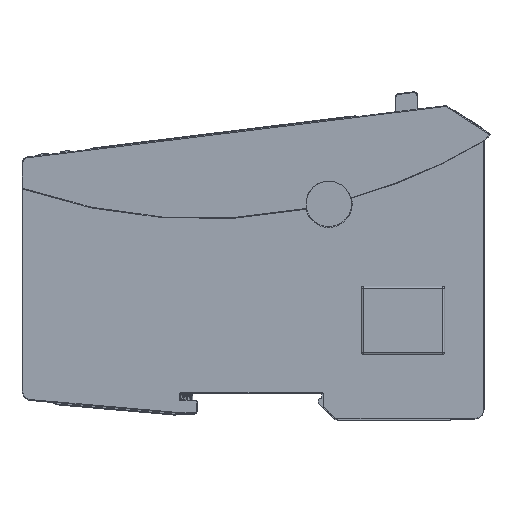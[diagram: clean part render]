
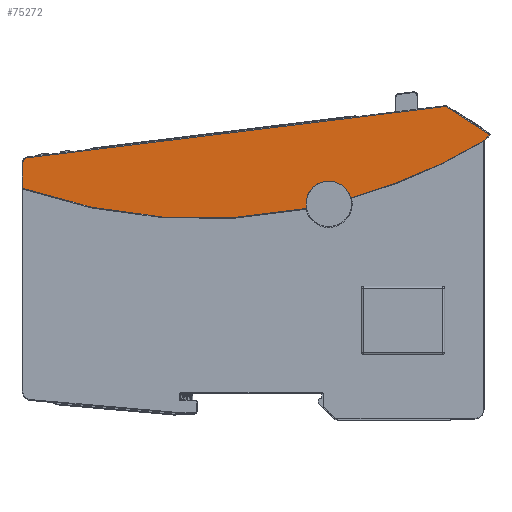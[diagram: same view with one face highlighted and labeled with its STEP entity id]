
A CAD part, top view. The second image highlights one B-rep face of the part: STEP entity #75272.
In plain terms, the highlighted planar face has unit normal (0, 0, 1).
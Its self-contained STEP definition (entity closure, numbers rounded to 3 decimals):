
#75093=AXIS2_PLACEMENT_3D('Circle Axis2P3D',#75091,#75092,$) ;
#75117=AXIS2_PLACEMENT_3D('Circle Axis2P3D',#75115,#75116,$) ;
#75130=AXIS2_PLACEMENT_3D('Plane Axis2P3D',#75127,#75128,#75129) ;
#75134=AXIS2_PLACEMENT_3D('Circle Axis2P3D',#75132,#75133,$) ;
#75143=AXIS2_PLACEMENT_3D('Circle Axis2P3D',#75141,#75142,$) ;
#75176=AXIS2_PLACEMENT_3D('Circle Axis2P3D',#75174,#75175,$) ;
#75208=AXIS2_PLACEMENT_3D('Circle Axis2P3D',#75206,#75207,$) ;
#75215=AXIS2_PLACEMENT_3D('Circle Axis2P3D',#75213,#75214,$) ;
#75251=AXIS2_PLACEMENT_3D('Circle Axis2P3D',#75249,#75250,$) ;
#57186=CARTESIAN_POINT('Vertex',(109.882,76.012,23.3)) ;
#57193=CARTESIAN_POINT('Vertex',(-0.258,62.488,23.3)) ;
#57196=CARTESIAN_POINT('Line Origine',(60.199,69.912,23.3)) ;
#75088=CARTESIAN_POINT('Vertex',(-1.4,61.198,23.3)) ;
#75091=CARTESIAN_POINT('Axis2P3D Location',(-0.1,61.198,23.3)) ;
#75112=CARTESIAN_POINT('Vertex',(110.749,75.812,23.3)) ;
#75115=CARTESIAN_POINT('Axis2P3D Location',(110.041,74.722,23.3)) ;
#75127=CARTESIAN_POINT('Axis2P3D Location',(-1.6,-1.675,23.3)) ;
#75132=CARTESIAN_POINT('Axis2P3D Location',(120.3,66.849,23.3)) ;
#75136=CARTESIAN_POINT('Vertex',(120.3,66.949,23.3)) ;
#75138=CARTESIAN_POINT('Vertex',(120.249,66.935,23.3)) ;
#75141=CARTESIAN_POINT('Axis2P3D Location',(120.6,66.936,23.3)) ;
#75145=CARTESIAN_POINT('Vertex',(120.399,67.159,23.3)) ;
#75148=CARTESIAN_POINT('Line Origine',(121.058,67.752,23.3)) ;
#75152=CARTESIAN_POINT('Vertex',(121.716,68.345,23.3)) ;
#75155=CARTESIAN_POINT('Line Origine',(121.673,68.545,23.3)) ;
#75159=CARTESIAN_POINT('Vertex',(121.631,68.745,23.3)) ;
#75162=CARTESIAN_POINT('Line Origine',(116.19,72.278,23.3)) ;
#75167=CARTESIAN_POINT('Line Origine',(-1.4,57.827,23.3)) ;
#75171=CARTESIAN_POINT('Vertex',(-1.4,54.456,23.3)) ;
#75174=CARTESIAN_POINT('Axis2P3D Location',(46.007,191.487,23.3)) ;
#75178=CARTESIAN_POINT('Vertex',(73.331,49.085,23.3)) ;
#75182=CARTESIAN_POINT('Control Point',(73.331,49.085,23.3)) ;
#75183=CARTESIAN_POINT('Control Point',(73.344,49.087,23.3)) ;
#75184=CARTESIAN_POINT('Control Point',(73.357,49.088,23.3)) ;
#75185=CARTESIAN_POINT('Control Point',(73.37,49.089,23.3)) ;
#75186=CARTESIAN_POINT('Control Point',(73.396,49.087,23.3)) ;
#75187=CARTESIAN_POINT('Control Point',(73.421,49.082,23.3)) ;
#75188=CARTESIAN_POINT('Control Point',(73.433,49.078,23.3)) ;
#75189=CARTESIAN_POINT('Control Point',(73.457,49.069,23.3)) ;
#75190=CARTESIAN_POINT('Control Point',(73.48,49.055,23.3)) ;
#75191=CARTESIAN_POINT('Control Point',(73.49,49.048,23.3)) ;
#75192=CARTESIAN_POINT('Control Point',(73.51,49.031,23.3)) ;
#75193=CARTESIAN_POINT('Control Point',(73.527,49.012,23.3)) ;
#75194=CARTESIAN_POINT('Control Point',(73.535,49.001,23.3)) ;
#75195=CARTESIAN_POINT('Control Point',(73.545,48.984,23.3)) ;
#75196=CARTESIAN_POINT('Control Point',(73.553,48.967,23.3)) ;
#75197=CARTESIAN_POINT('Control Point',(73.555,48.961,23.3)) ;
#75198=CARTESIAN_POINT('Control Point',(73.559,48.952,23.3)) ;
#75199=CARTESIAN_POINT('Control Point',(73.561,48.943,23.3)) ;
#75200=CARTESIAN_POINT('Control Point',(73.562,48.94,23.3)) ;
#75201=CARTESIAN_POINT('Control Point',(73.563,48.937,23.3)) ;
#75202=CARTESIAN_POINT('Control Point',(73.563,48.935,23.3)) ;
#75203=CARTESIAN_POINT('Vertex',(73.563,48.935,23.3)) ;
#75206=CARTESIAN_POINT('Axis2P3D Location',(79.4,50.325,23.3)) ;
#75210=CARTESIAN_POINT('Vertex',(73.4,50.325,23.3)) ;
#75213=CARTESIAN_POINT('Axis2P3D Location',(79.4,50.325,23.3)) ;
#75217=CARTESIAN_POINT('Vertex',(85.194,51.883,23.3)) ;
#75221=CARTESIAN_POINT('Control Point',(85.194,51.883,23.3)) ;
#75222=CARTESIAN_POINT('Control Point',(85.199,51.864,23.3)) ;
#75223=CARTESIAN_POINT('Control Point',(85.204,51.845,23.3)) ;
#75224=CARTESIAN_POINT('Control Point',(85.209,51.826,23.3)) ;
#75225=CARTESIAN_POINT('Control Point',(85.214,51.807,23.3)) ;
#75226=CARTESIAN_POINT('Control Point',(85.219,51.788,23.3)) ;
#75227=CARTESIAN_POINT('Vertex',(85.219,51.788,23.3)) ;
#75231=CARTESIAN_POINT('Control Point',(85.219,51.788,23.3)) ;
#75232=CARTESIAN_POINT('Control Point',(85.217,51.797,23.3)) ;
#75233=CARTESIAN_POINT('Control Point',(85.215,51.807,23.3)) ;
#75234=CARTESIAN_POINT('Control Point',(85.215,51.816,23.3)) ;
#75235=CARTESIAN_POINT('Control Point',(85.217,51.835,23.3)) ;
#75236=CARTESIAN_POINT('Control Point',(85.223,51.852,23.3)) ;
#75237=CARTESIAN_POINT('Control Point',(85.227,51.861,23.3)) ;
#75238=CARTESIAN_POINT('Control Point',(85.238,51.877,23.3)) ;
#75239=CARTESIAN_POINT('Control Point',(85.251,51.89,23.3)) ;
#75240=CARTESIAN_POINT('Control Point',(85.259,51.896,23.3)) ;
#75241=CARTESIAN_POINT('Control Point',(85.269,51.902,23.3)) ;
#75242=CARTESIAN_POINT('Control Point',(85.28,51.906,23.3)) ;
#75243=CARTESIAN_POINT('Control Point',(85.283,51.907,23.3)) ;
#75244=CARTESIAN_POINT('Control Point',(85.286,51.908,23.3)) ;
#75245=CARTESIAN_POINT('Control Point',(85.289,51.909,23.3)) ;
#75246=CARTESIAN_POINT('Vertex',(85.289,51.909,23.3)) ;
#75249=CARTESIAN_POINT('Axis2P3D Location',(46.007,191.487,23.3)) ;
#57197=DIRECTION('Vector Direction',(-0.993,-0.122,0.)) ;
#75092=DIRECTION('Axis2P3D Direction',(0.,0.,1.)) ;
#75116=DIRECTION('Axis2P3D Direction',(0.,0.,1.)) ;
#75128=DIRECTION('Axis2P3D Direction',(0.,0.,1.)) ;
#75129=DIRECTION('Axis2P3D XDirection',(1.,0.,0.)) ;
#75133=DIRECTION('Axis2P3D Direction',(0.,0.,1.)) ;
#75142=DIRECTION('Axis2P3D Direction',(0.,0.,1.)) ;
#75149=DIRECTION('Vector Direction',(0.743,0.669,0.)) ;
#75156=DIRECTION('Vector Direction',(-0.208,0.978,0.)) ;
#75163=DIRECTION('Vector Direction',(0.839,-0.545,0.)) ;
#75168=DIRECTION('Vector Direction',(0.,1.,0.)) ;
#75175=DIRECTION('Axis2P3D Direction',(0.,0.,1.)) ;
#75207=DIRECTION('Axis2P3D Direction',(0.,0.,1.)) ;
#75214=DIRECTION('Axis2P3D Direction',(0.,0.,1.)) ;
#75250=DIRECTION('Axis2P3D Direction',(0.,0.,1.)) ;
#57198=VECTOR('Line Direction',#57197,1.) ;
#75150=VECTOR('Line Direction',#75149,1.) ;
#75157=VECTOR('Line Direction',#75156,1.) ;
#75164=VECTOR('Line Direction',#75163,1.) ;
#75169=VECTOR('Line Direction',#75168,1.) ;
#75255=ORIENTED_EDGE('',*,*,#75140,.F.) ;
#75256=ORIENTED_EDGE('',*,*,#75147,.T.) ;
#75257=ORIENTED_EDGE('',*,*,#75154,.T.) ;
#75258=ORIENTED_EDGE('',*,*,#75161,.F.) ;
#75259=ORIENTED_EDGE('',*,*,#75166,.T.) ;
#75260=ORIENTED_EDGE('',*,*,#75119,.T.) ;
#75261=ORIENTED_EDGE('',*,*,#57200,.T.) ;
#75262=ORIENTED_EDGE('',*,*,#75095,.T.) ;
#75263=ORIENTED_EDGE('',*,*,#75173,.T.) ;
#75264=ORIENTED_EDGE('',*,*,#75180,.T.) ;
#75265=ORIENTED_EDGE('',*,*,#75205,.F.) ;
#75266=ORIENTED_EDGE('',*,*,#75212,.F.) ;
#75267=ORIENTED_EDGE('',*,*,#75219,.F.) ;
#75268=ORIENTED_EDGE('',*,*,#75229,.T.) ;
#75269=ORIENTED_EDGE('',*,*,#75248,.F.) ;
#75270=ORIENTED_EDGE('',*,*,#75253,.T.) ;
#75272=ADVANCED_FACE('K\X2\00F6\X0\rper.2',(#75271),#75131,.T.) ;
#75181=B_SPLINE_CURVE_WITH_KNOTS('',5,(#75182,#75183,#75184,#75185,#75186,#75187,#75188,#75189,#75190,#75191,#75192,#75193,#75194,#75195,#75196,#75197,#75198,#75199,#75200,#75201,#75202),.UNSPECIFIED.,.F.,.U.,(6,3,3,3,3,3,6),(0.,0.091,0.182,0.274,0.365,0.41,0.431),.UNSPECIFIED.) ;
#75220=B_SPLINE_CURVE_WITH_KNOTS('',5,(#75221,#75222,#75223,#75224,#75225,#75226),.UNSPECIFIED.,.F.,.U.,(6,6),(0.,0.14),.UNSPECIFIED.) ;
#75230=B_SPLINE_CURVE_WITH_KNOTS('',5,(#75231,#75232,#75233,#75234,#75235,#75236,#75237,#75238,#75239,#75240,#75241,#75242,#75243,#75244,#75245),.UNSPECIFIED.,.F.,.U.,(6,3,3,3,6),(0.,0.055,0.11,0.166,0.183),.UNSPECIFIED.) ;
#75094=CIRCLE('generated circle',#75093,1.3) ;
#75118=CIRCLE('generated circle',#75117,1.3) ;
#75135=CIRCLE('generated circle',#75134,0.1) ;
#75144=CIRCLE('generated circle',#75143,0.3) ;
#75177=CIRCLE('generated circle',#75176,145.) ;
#75209=CIRCLE('generated circle',#75208,6.) ;
#75216=CIRCLE('generated circle',#75215,6.) ;
#75252=CIRCLE('generated circle',#75251,145.) ;
#57200=EDGE_CURVE('',#57187,#57194,#57199,.T.) ;
#75095=EDGE_CURVE('',#57194,#75089,#75094,.T.) ;
#75119=EDGE_CURVE('',#75113,#57187,#75118,.T.) ;
#75140=EDGE_CURVE('',#75137,#75139,#75135,.T.) ;
#75147=EDGE_CURVE('',#75137,#75146,#75144,.F.) ;
#75154=EDGE_CURVE('',#75146,#75153,#75151,.T.) ;
#75161=EDGE_CURVE('',#75160,#75153,#75158,.F.) ;
#75166=EDGE_CURVE('',#75160,#75113,#75165,.F.) ;
#75173=EDGE_CURVE('',#75089,#75172,#75170,.F.) ;
#75180=EDGE_CURVE('',#75172,#75179,#75177,.T.) ;
#75205=EDGE_CURVE('',#75204,#75179,#75181,.F.) ;
#75212=EDGE_CURVE('',#75211,#75204,#75209,.T.) ;
#75219=EDGE_CURVE('',#75218,#75211,#75216,.T.) ;
#75229=EDGE_CURVE('',#75218,#75228,#75220,.T.) ;
#75248=EDGE_CURVE('',#75247,#75228,#75230,.F.) ;
#75253=EDGE_CURVE('',#75247,#75139,#75252,.T.) ;
#75254=EDGE_LOOP('',(#75255,#75256,#75257,#75258,#75259,#75260,#75261,#75262,#75263,#75264,#75265,#75266,#75267,#75268,#75269,#75270)) ;
#75271=FACE_OUTER_BOUND('',#75254,.T.) ;
#57199=LINE('Line',#57196,#57198) ;
#75151=LINE('Line',#75148,#75150) ;
#75158=LINE('Line',#75155,#75157) ;
#75165=LINE('Line',#75162,#75164) ;
#75170=LINE('Line',#75167,#75169) ;
#75131=PLANE('Plane',#75130) ;
#57187=VERTEX_POINT('',#57186) ;
#57194=VERTEX_POINT('',#57193) ;
#75089=VERTEX_POINT('',#75088) ;
#75113=VERTEX_POINT('',#75112) ;
#75137=VERTEX_POINT('',#75136) ;
#75139=VERTEX_POINT('',#75138) ;
#75146=VERTEX_POINT('',#75145) ;
#75153=VERTEX_POINT('',#75152) ;
#75160=VERTEX_POINT('',#75159) ;
#75172=VERTEX_POINT('',#75171) ;
#75179=VERTEX_POINT('',#75178) ;
#75204=VERTEX_POINT('',#75203) ;
#75211=VERTEX_POINT('',#75210) ;
#75218=VERTEX_POINT('',#75217) ;
#75228=VERTEX_POINT('',#75227) ;
#75247=VERTEX_POINT('',#75246) ;
